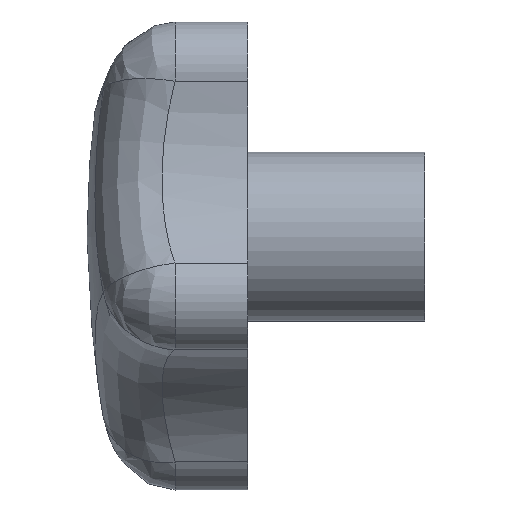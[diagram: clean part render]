
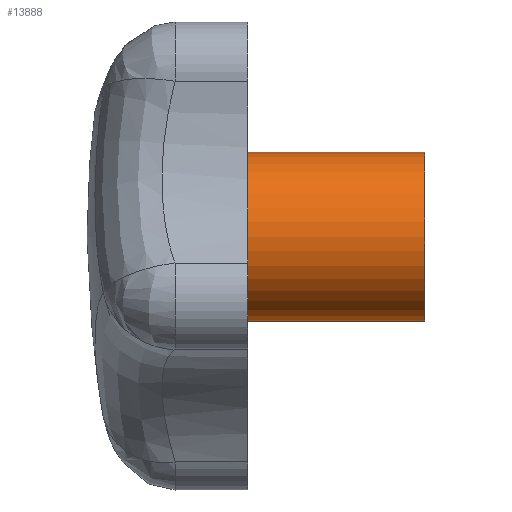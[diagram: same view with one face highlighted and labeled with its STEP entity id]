
A CAD part, left-side view. The second image highlights one B-rep face of the part: STEP entity #13888.
In plain terms, the highlighted cylindrical face has radius 10 mm (diameter 20 mm), a partial arc.
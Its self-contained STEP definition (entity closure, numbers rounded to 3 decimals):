
#317 = VERTEX_POINT ( 'NONE', #598 ) ;
#319 = EDGE_CURVE ( 'NONE', #317, #320, #13122, .T. ) ;
#320 = VERTEX_POINT ( 'NONE', #660 ) ;
#323 = VERTEX_POINT ( 'NONE', #654 ) ;
#325 = EDGE_CURVE ( 'NONE', #326, #323, #653, .T. ) ;
#326 = VERTEX_POINT ( 'NONE', #649 ) ;
#359 = EDGE_CURVE ( 'NONE', #378, #326, #700, .T. ) ;
#378 = VERTEX_POINT ( 'NONE', #809 ) ;
#380 = EDGE_CURVE ( 'NONE', #317, #378, #807, .T. ) ;
#598 = CARTESIAN_POINT ( 'NONE',  ( 0., 16.075, 10. ) ) ;
#649 = CARTESIAN_POINT ( 'NONE',  ( 0., 16.075, -10. ) ) ;
#650 = DIRECTION ( 'NONE',  ( 0., -1., 0. ) ) ;
#651 = VECTOR ( 'NONE', #650, 1000. ) ;
#652 = CARTESIAN_POINT ( 'NONE',  ( 0., 500000., -10. ) ) ;
#653 = LINE ( 'NONE', #652, #651 ) ;
#654 = CARTESIAN_POINT ( 'NONE',  ( 0., -21., -10. ) ) ;
#660 = CARTESIAN_POINT ( 'NONE',  ( 0., -21., 10. ) ) ;
#696 = DIRECTION ( 'NONE',  ( 0., 0., -1. ) ) ;
#697 = DIRECTION ( 'NONE',  ( 0., -1., 0. ) ) ;
#698 = CARTESIAN_POINT ( 'NONE',  ( 0., 16.075, 0. ) ) ;
#699 = AXIS2_PLACEMENT_3D ( 'NONE', #698, #697, #696 ) ;
#700 = CIRCLE ( 'NONE', #699, 10. ) ;
#803 = DIRECTION ( 'NONE',  ( 0., 0., -1. ) ) ;
#804 = DIRECTION ( 'NONE',  ( 0., -1., 0. ) ) ;
#805 = CARTESIAN_POINT ( 'NONE',  ( 0., 16.075, 0. ) ) ;
#806 = AXIS2_PLACEMENT_3D ( 'NONE', #805, #804, #803 ) ;
#807 = CIRCLE ( 'NONE', #806, 10. ) ;
#809 = CARTESIAN_POINT ( 'NONE',  ( -10., 16.075, 0. ) ) ;
#11674 = FACE_OUTER_BOUND ( 'NONE', #13842, .T. ) ;
#11712 = DIRECTION ( 'NONE',  ( 0., 0., -1. ) ) ;
#11713 = DIRECTION ( 'NONE',  ( 0., -1., 0. ) ) ;
#11714 = CARTESIAN_POINT ( 'NONE',  ( 0., 500000., 0. ) ) ;
#11715 = AXIS2_PLACEMENT_3D ( 'NONE', #11714, #11713, #11712 ) ;
#11718 = CYLINDRICAL_SURFACE ( 'NONE', #11715, 10. ) ;
#12206 = DIRECTION ( 'NONE',  ( 0., 0., 1. ) ) ;
#12207 = DIRECTION ( 'NONE',  ( 0., 1., 0. ) ) ;
#12208 = AXIS2_PLACEMENT_3D ( 'NONE', #12211, #12207, #12206 ) ;
#12209 = CIRCLE ( 'NONE', #12208, 10. ) ;
#12211 = CARTESIAN_POINT ( 'NONE',  ( 0., -21., 0. ) ) ;
#13122 = LINE ( 'NONE', #13143, #13166 ) ;
#13143 = CARTESIAN_POINT ( 'NONE',  ( 0., 500000., 10. ) ) ;
#13166 = VECTOR ( 'NONE', #13167, 1000. ) ;
#13167 = DIRECTION ( 'NONE',  ( 0., -1., 0. ) ) ;
#13826 = ORIENTED_EDGE ( 'NONE', *, *, #380, .T. ) ;
#13842 = EDGE_LOOP ( 'NONE', ( #13855, #13826, #13860, #13899, #13910 ) ) ;
#13855 = ORIENTED_EDGE ( 'NONE', *, *, #319, .F. ) ;
#13860 = ORIENTED_EDGE ( 'NONE', *, *, #359, .T. ) ;
#13868 = EDGE_CURVE ( 'NONE', #323, #320, #12209, .T. ) ;
#13888 = ADVANCED_FACE ( 'NONE', ( #11674 ), #11718, .T. ) ;
#13899 = ORIENTED_EDGE ( 'NONE', *, *, #325, .T. ) ;
#13910 = ORIENTED_EDGE ( 'NONE', *, *, #13868, .T. ) ;
